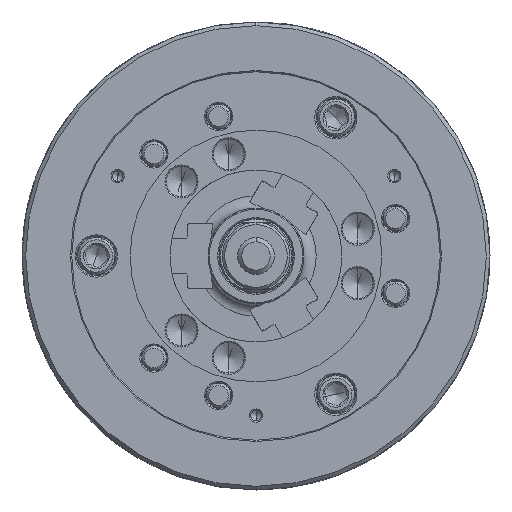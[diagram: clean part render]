
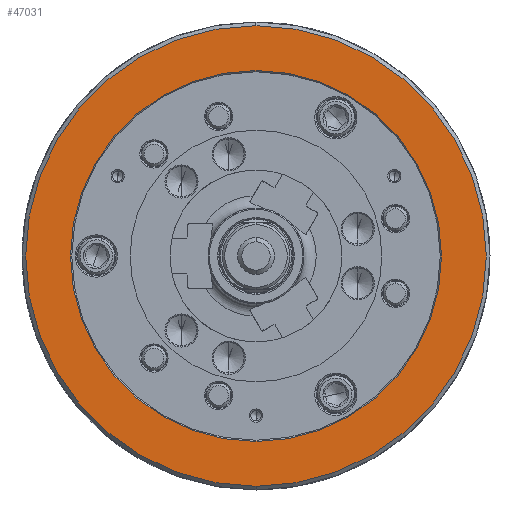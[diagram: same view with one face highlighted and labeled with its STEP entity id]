
A CAD part, left-side view. The second image highlights one B-rep face of the part: STEP entity #47031.
In plain terms, the highlighted planar face has unit normal (-1, 0, 0).
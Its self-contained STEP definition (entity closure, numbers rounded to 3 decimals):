
#75 = DIRECTION ( 'NONE',  ( 1., 0., 0. ) ) ;
#710 = AXIS2_PLACEMENT_3D ( 'NONE', #40605, #29299, #72486 ) ;
#2615 = VERTEX_POINT ( 'NONE', #85997 ) ;
#4553 = AXIS2_PLACEMENT_3D ( 'NONE', #56920, #75, #60654 ) ;
#5488 = CARTESIAN_POINT ( 'NONE',  ( -114., 0., 0. ) ) ;
#5638 = PLANE ( 'NONE',  #4553 ) ;
#5807 = ORIENTED_EDGE ( 'NONE', *, *, #79522, .T. ) ;
#6669 = DIRECTION ( 'NONE',  ( 1., 0., 0. ) ) ;
#7707 = EDGE_CURVE ( 'NONE', #2615, #65202, #46156, .T. ) ;
#10253 = EDGE_LOOP ( 'NONE', ( #59816, #25245 ) ) ;
#12577 = EDGE_CURVE ( 'NONE', #65202, #2615, #49664, .T. ) ;
#19169 = EDGE_CURVE ( 'NONE', #21581, #33442, #119348, .T. ) ;
#20064 = FACE_OUTER_BOUND ( 'NONE', #10253, .T. ) ;
#21581 = VERTEX_POINT ( 'NONE', #39773 ) ;
#25245 = ORIENTED_EDGE ( 'NONE', *, *, #7707, .F. ) ;
#29299 = DIRECTION ( 'NONE',  ( 1., 0., 0. ) ) ;
#33442 = VERTEX_POINT ( 'NONE', #84918 ) ;
#39773 = CARTESIAN_POINT ( 'NONE',  ( -114., 0., -151. ) ) ;
#40605 = CARTESIAN_POINT ( 'NONE',  ( -114., 0., 0. ) ) ;
#46132 = DIRECTION ( 'NONE',  ( 1., 0., 0. ) ) ;
#46156 = CIRCLE ( 'NONE', #126892, 187.5 ) ;
#47031 = ADVANCED_FACE ( 'NONE', ( #20064, #91274 ), #5638, .F. ) ;
#49664 = CIRCLE ( 'NONE', #710, 187.5 ) ;
#51304 = AXIS2_PLACEMENT_3D ( 'NONE', #80427, #121004, #61774 ) ;
#51747 = AXIS2_PLACEMENT_3D ( 'NONE', #5488, #46132, #123981 ) ;
#53649 = ORIENTED_EDGE ( 'NONE', *, *, #19169, .T. ) ;
#56920 = CARTESIAN_POINT ( 'NONE',  ( -114., -187.5, 0. ) ) ;
#59816 = ORIENTED_EDGE ( 'NONE', *, *, #12577, .F. ) ;
#60654 = DIRECTION ( 'NONE',  ( 0., 0., -1. ) ) ;
#61774 = DIRECTION ( 'NONE',  ( 0., 0., -1. ) ) ;
#65202 = VERTEX_POINT ( 'NONE', #71819 ) ;
#71819 = CARTESIAN_POINT ( 'NONE',  ( -114., 0., -187.5 ) ) ;
#72486 = DIRECTION ( 'NONE',  ( 0., 0., -1. ) ) ;
#79522 = EDGE_CURVE ( 'NONE', #33442, #21581, #128327, .T. ) ;
#80427 = CARTESIAN_POINT ( 'NONE',  ( -114., 0., 0. ) ) ;
#84918 = CARTESIAN_POINT ( 'NONE',  ( -114., 0., 151. ) ) ;
#85997 = CARTESIAN_POINT ( 'NONE',  ( -114., 0., 187.5 ) ) ;
#89881 = CARTESIAN_POINT ( 'NONE',  ( -114., 0., 0. ) ) ;
#91274 = FACE_BOUND ( 'NONE', #130351, .T. ) ;
#108521 = DIRECTION ( 'NONE',  ( 0., 0., -1. ) ) ;
#119348 = CIRCLE ( 'NONE', #51304, 151. ) ;
#121004 = DIRECTION ( 'NONE',  ( 1., 0., 0. ) ) ;
#123981 = DIRECTION ( 'NONE',  ( 0., 0., -1. ) ) ;
#126892 = AXIS2_PLACEMENT_3D ( 'NONE', #89881, #6669, #108521 ) ;
#128327 = CIRCLE ( 'NONE', #51747, 151. ) ;
#130351 = EDGE_LOOP ( 'NONE', ( #5807, #53649 ) ) ;
